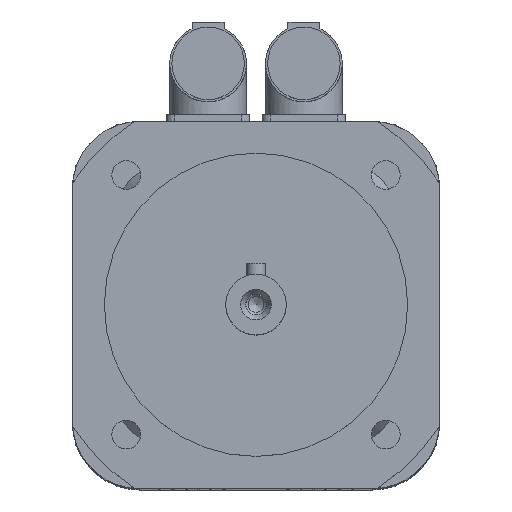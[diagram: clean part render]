
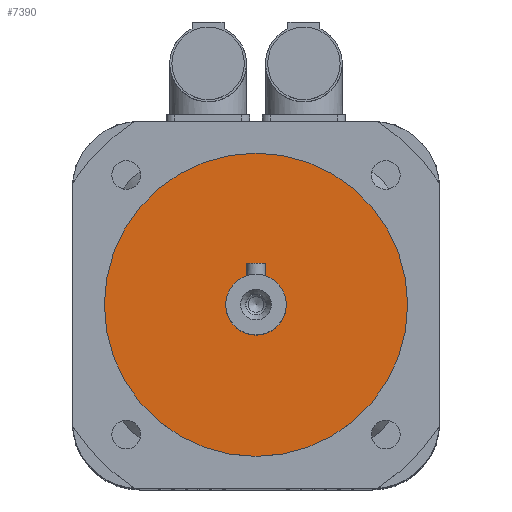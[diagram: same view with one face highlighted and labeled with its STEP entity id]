
A CAD part, top view. The second image highlights one B-rep face of the part: STEP entity #7390.
In plain terms, the highlighted planar face has unit normal (0, 0, 1).
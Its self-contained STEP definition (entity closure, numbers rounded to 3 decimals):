
#1603=PLANE('',#7889);
#2052=FACE_BOUND('',#2627,.T.);
#2146=FACE_OUTER_BOUND('',#2626,.T.);
#2626=EDGE_LOOP('',(#5423));
#2627=EDGE_LOOP('',(#5424));
#3132=CIRCLE('',#7888,9.5);
#3133=CIRCLE('',#7890,47.5);
#3541=VERTEX_POINT('',#11268);
#3542=VERTEX_POINT('',#11271);
#4274=EDGE_CURVE('',#3541,#3541,#3132,.T.);
#4275=EDGE_CURVE('',#3542,#3542,#3133,.T.);
#5423=ORIENTED_EDGE('',*,*,#4275,.F.);
#5424=ORIENTED_EDGE('',*,*,#4274,.T.);
#7390=ADVANCED_FACE('',(#2146,#2052),#1603,.T.);
#7888=AXIS2_PLACEMENT_3D('',#11269,#8858,#8859);
#7889=AXIS2_PLACEMENT_3D('',#11270,#8860,#8861);
#7890=AXIS2_PLACEMENT_3D('',#11272,#8862,#8863);
#8858=DIRECTION('center_axis',(0.,0.,-1.));
#8859=DIRECTION('ref_axis',(1.,0.,0.));
#8860=DIRECTION('center_axis',(0.,0.,1.));
#8861=DIRECTION('ref_axis',(1.,0.,0.));
#8862=DIRECTION('center_axis',(0.,0.,-1.));
#8863=DIRECTION('ref_axis',(1.,0.,0.));
#11268=CARTESIAN_POINT('',(0.,9.5,258.));
#11269=CARTESIAN_POINT('Origin',(0.,0.,258.));
#11270=CARTESIAN_POINT('Origin',(0.,47.5,258.));
#11271=CARTESIAN_POINT('',(0.,47.5,258.));
#11272=CARTESIAN_POINT('Origin',(0.,0.,258.));
